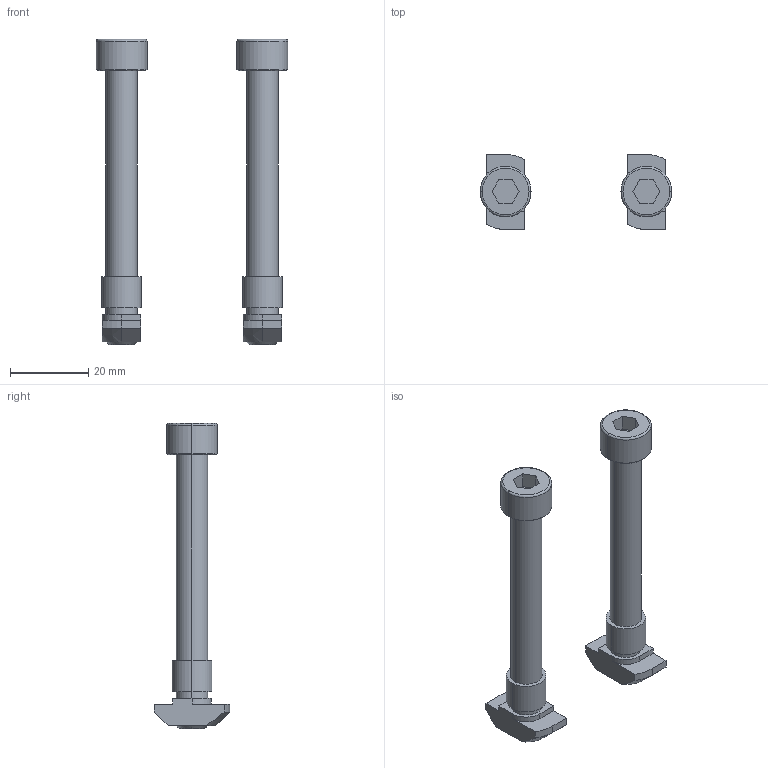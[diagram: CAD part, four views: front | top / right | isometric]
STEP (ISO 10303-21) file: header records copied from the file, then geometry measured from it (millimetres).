
FILE_DESCRIPTION (( 'STEP AP203' ), '1' );
FILE_NAME ('75000022.STEP', '2016-11-21T15:01:56', ( '' ), ( '' ), 'SwSTEP 2.0', 'SolidWorks 2015', '' );
FILE_SCHEMA (( 'CONFIG_CONTROL_DESIGN' ));
Length unit declared in the file: millimetre
Products named in the file (1): 75000022
Bounding box: 49 x 19.2 x 78 mm (x, y, z)
Volume: 10686.4 mm3; surface area: 6621.5 mm2
Topology: 2 solids, 2 shells, 92 faces, 216 edges, 140 vertices
Faces by surface type: plane 48, cylinder 28, cone 12, torus 4
Entity records: 2963 total; most frequent: CARTESIAN_POINT 717, DIRECTION 462, ORIENTED_EDGE 432, EDGE_CURVE 216, AXIS2_PLACEMENT_3D 165, VERTEX_POINT 140, VECTOR 132, LINE 132
